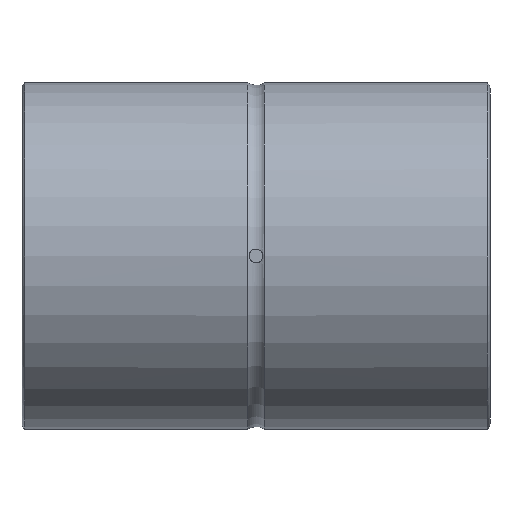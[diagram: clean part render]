
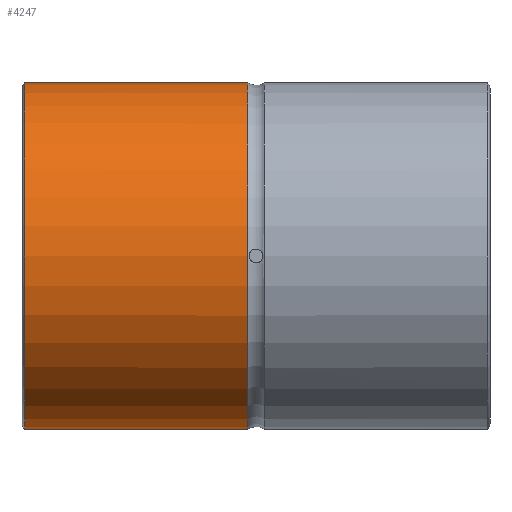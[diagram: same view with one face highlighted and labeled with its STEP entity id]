
A CAD part, front view. The second image highlights one B-rep face of the part: STEP entity #4247.
In plain terms, the highlighted cylindrical face has radius 50 mm (diameter 100 mm), a full revolution.
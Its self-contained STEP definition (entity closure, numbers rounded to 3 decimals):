
#23=B_SPLINE_CURVE_WITH_KNOTS('',3,(#6993,#6994,#6995,#6996,#6997,#6998,
#6999,#7000,#7001,#7002,#7003),.UNSPECIFIED.,.F.,.F.,(4,1,1,1,1,1,1,1,4),
(0.,0.004,0.007,0.011,0.014,
0.018,0.021,0.025,0.028),
 .UNSPECIFIED.);
#370=LINE('',#7006,#764);
#371=LINE('',#7007,#765);
#764=VECTOR('',#5609,1000.);
#765=VECTOR('',#5610,1000.);
#1504=ORIENTED_EDGE('',*,*,#2577,.T.);
#1505=ORIENTED_EDGE('',*,*,#2578,.T.);
#1506=ORIENTED_EDGE('',*,*,#2570,.F.);
#1507=ORIENTED_EDGE('',*,*,#2579,.T.);
#1508=ORIENTED_EDGE('',*,*,#2576,.T.);
#2570=EDGE_CURVE('',#3104,#3105,#3427,.T.);
#2576=EDGE_CURVE('',#3110,#3110,#3429,.T.);
#2577=EDGE_CURVE('',#3111,#3112,#23,.T.);
#2578=EDGE_CURVE('',#3112,#3105,#370,.T.);
#2579=EDGE_CURVE('',#3104,#3111,#371,.F.);
#3104=VERTEX_POINT('',#6942);
#3105=VERTEX_POINT('',#6943);
#3110=VERTEX_POINT('',#6991);
#3111=VERTEX_POINT('',#7004);
#3112=VERTEX_POINT('',#7005);
#3427=CIRCLE('',#4676,50.);
#3429=CIRCLE('',#4679,50.);
#3597=EDGE_LOOP('',(#1504,#1505,#1506,#1507));
#3598=EDGE_LOOP('',(#1508));
#3877=FACE_BOUND('',#3597,.T.);
#3878=FACE_BOUND('',#3598,.T.);
#4110=CYLINDRICAL_SURFACE('',#4680,50.);
#4247=ADVANCED_FACE('',(#3877,#3878),#4110,.T.);
#4676=AXIS2_PLACEMENT_3D('',#6941,#5599,#5600);
#4679=AXIS2_PLACEMENT_3D('',#6990,#5605,#5606);
#4680=AXIS2_PLACEMENT_3D('',#6992,#5607,#5608);
#5599=DIRECTION('',(1.,0.,0.));
#5600=DIRECTION('',(0.,0.,-1.));
#5605=DIRECTION('',(1.,0.,0.));
#5606=DIRECTION('',(0.,0.,-1.));
#5607=DIRECTION('',(1.,0.,0.));
#5608=DIRECTION('',(0.,0.,-1.));
#5609=DIRECTION('',(1.,0.,0.));
#5610=DIRECTION('',(1.,0.,0.));
#6941=CARTESIAN_POINT('',(-2.33,0.,0.));
#6942=CARTESIAN_POINT('',(-2.33,49.183,9.));
#6943=CARTESIAN_POINT('',(-2.33,49.183,-9.));
#6990=CARTESIAN_POINT('',(-66.7,0.,0.));
#6991=CARTESIAN_POINT('',(-66.7,0.,-50.));
#6992=CARTESIAN_POINT('',(67.5,0.,0.));
#6993=CARTESIAN_POINT('',(-25.,49.183,9.));
#6994=CARTESIAN_POINT('',(-26.192,49.183,9.));
#6995=CARTESIAN_POINT('',(-28.538,49.273,8.528));
#6996=CARTESIAN_POINT('',(-31.53,49.594,6.528));
#6997=CARTESIAN_POINT('',(-33.526,49.912,3.543));
#6998=CARTESIAN_POINT('',(-34.235,50.044,0.008));
#6999=CARTESIAN_POINT('',(-33.532,49.913,-3.532));
#7000=CARTESIAN_POINT('',(-31.533,49.594,-6.526));
#7001=CARTESIAN_POINT('',(-28.542,49.273,-8.526));
#7002=CARTESIAN_POINT('',(-26.192,49.183,-9.));
#7003=CARTESIAN_POINT('',(-25.,49.183,-9.));
#7004=CARTESIAN_POINT('',(-25.,49.183,9.));
#7005=CARTESIAN_POINT('',(-25.,49.183,-9.));
#7006=CARTESIAN_POINT('',(67.5,49.183,-9.));
#7007=CARTESIAN_POINT('',(67.5,49.183,9.));
